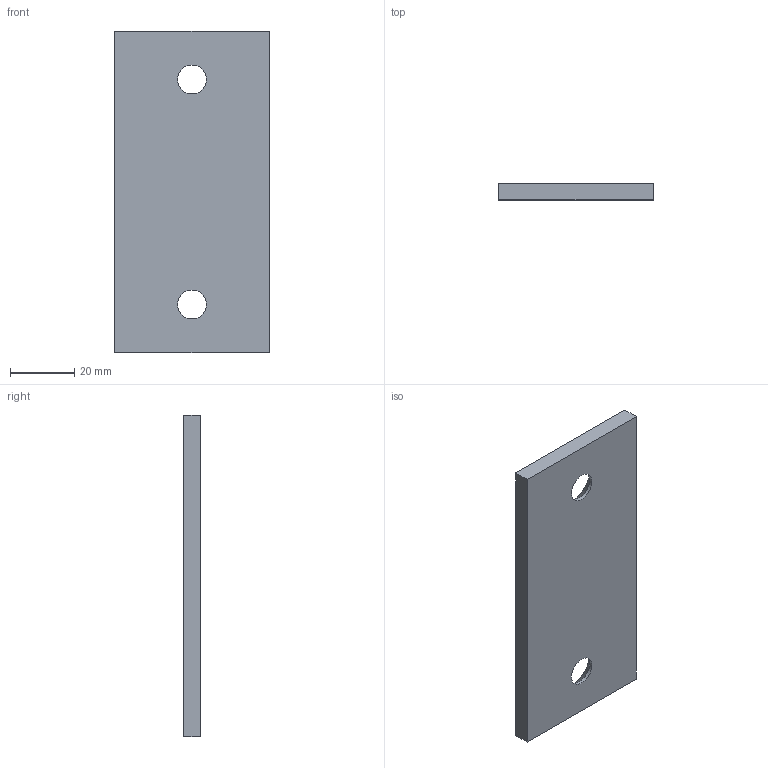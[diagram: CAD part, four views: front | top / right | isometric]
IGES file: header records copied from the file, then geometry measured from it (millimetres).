
Start section: Data from Parasolid IGES Translator 20.0.26, Copyright(c) 2006 Siemens P LM Software. All Rights Reserved.
Global section: file name: P605-01-048-100.igs; native system: By Siemens PLM Incorporated; preprocessor: XPlus GENERIC/IGES 20.0.26; author: Noname; organization: Noname; date: 20190705.145923; units: millimetre
Bounding box: 48 x 5 x 100 mm (x, y, z)
Surface area: 11017.4 mm2 (no closed solid volume)
Topology: 0 solids, 0 shells, 10 faces, 44 edges, 41 vertices
Faces by surface type: extrusion 6, revolution 4
